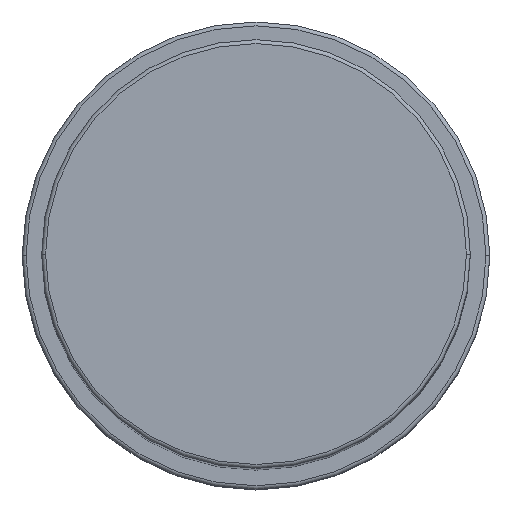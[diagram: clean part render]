
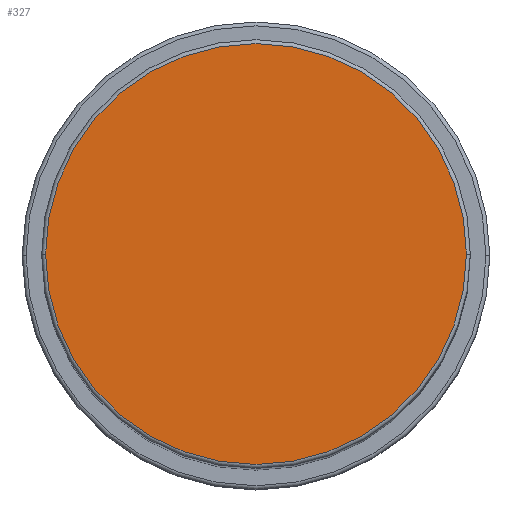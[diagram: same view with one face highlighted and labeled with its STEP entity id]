
A CAD part, top view. The second image highlights one B-rep face of the part: STEP entity #327.
In plain terms, the highlighted planar face has unit normal (0, 0, 1).
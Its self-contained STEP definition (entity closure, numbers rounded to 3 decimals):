
#170 = CARTESIAN_POINT ( 'NONE',  ( 0., 0., 143. ) ) ;
#245 = DIRECTION ( 'NONE',  ( 1., 0., 0. ) ) ;
#327 = ADVANCED_FACE ( 'NONE', ( #1456 ), #586, .T. ) ;
#366 = CARTESIAN_POINT ( 'NONE',  ( -27., 0., 143. ) ) ;
#436 = EDGE_CURVE ( 'NONE', #738, #1160, #1282, .T. ) ;
#522 = DIRECTION ( 'NONE',  ( 0., 0., 1. ) ) ;
#586 = PLANE ( 'NONE',  #1506 ) ;
#601 = EDGE_CURVE ( 'NONE', #1160, #738, #1639, .T. ) ;
#611 = ORIENTED_EDGE ( 'NONE', *, *, #436, .T. ) ;
#648 = DIRECTION ( 'NONE',  ( 1., 0., 0. ) ) ;
#738 = VERTEX_POINT ( 'NONE', #973 ) ;
#904 = DIRECTION ( 'NONE',  ( 0., 0., 1. ) ) ;
#927 = AXIS2_PLACEMENT_3D ( 'NONE', #1776, #522, #245 ) ;
#973 = CARTESIAN_POINT ( 'NONE',  ( 27., 0., 143. ) ) ;
#1063 = CARTESIAN_POINT ( 'NONE',  ( 0., 0., 143. ) ) ;
#1160 = VERTEX_POINT ( 'NONE', #366 ) ;
#1173 = DIRECTION ( 'NONE',  ( 1., 0., 0. ) ) ;
#1282 = CIRCLE ( 'NONE', #1320, 27. ) ;
#1299 = ORIENTED_EDGE ( 'NONE', *, *, #601, .T. ) ;
#1320 = AXIS2_PLACEMENT_3D ( 'NONE', #1063, #904, #648 ) ;
#1426 = DIRECTION ( 'NONE',  ( 0., 0., 1. ) ) ;
#1456 = FACE_OUTER_BOUND ( 'NONE', #1499, .T. ) ;
#1499 = EDGE_LOOP ( 'NONE', ( #611, #1299 ) ) ;
#1506 = AXIS2_PLACEMENT_3D ( 'NONE', #170, #1426, #1173 ) ;
#1639 = CIRCLE ( 'NONE', #927, 27. ) ;
#1776 = CARTESIAN_POINT ( 'NONE',  ( 0., 0., 143. ) ) ;
